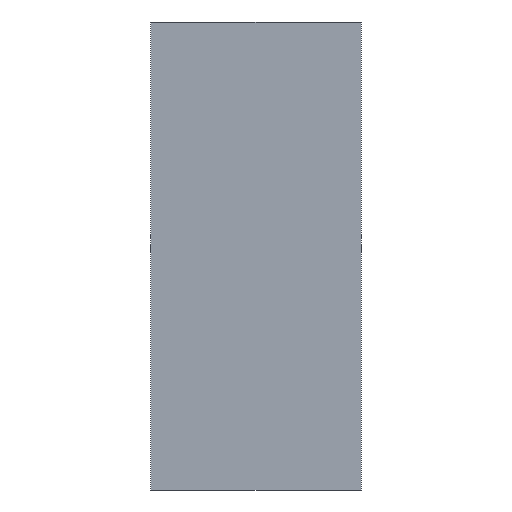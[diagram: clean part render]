
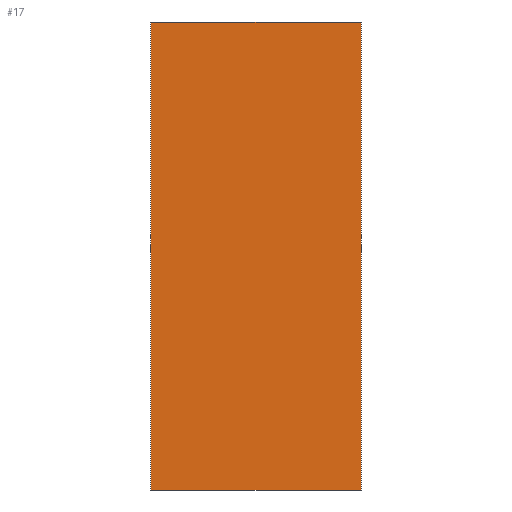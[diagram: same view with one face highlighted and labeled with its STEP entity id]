
A CAD part, left-side view. The second image highlights one B-rep face of the part: STEP entity #17.
In plain terms, the highlighted planar face has unit normal (-1, 0, 0).
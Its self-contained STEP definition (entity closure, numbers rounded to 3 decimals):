
#17 = ADVANCED_FACE('',(#18),#32,.F.);
#18 = FACE_BOUND('',#19,.F.);
#19 = EDGE_LOOP('',(#20,#55,#83,#111));
#20 = ORIENTED_EDGE('',*,*,#21,.F.);
#21 = EDGE_CURVE('',#22,#24,#26,.T.);
#22 = VERTEX_POINT('',#23);
#23 = CARTESIAN_POINT('',(-9.,-225.,-500.));
#24 = VERTEX_POINT('',#25);
#25 = CARTESIAN_POINT('',(-9.,-225.,500.));
#26 = SURFACE_CURVE('',#27,(#31,#43),.PCURVE_S1.);
#27 = LINE('',#28,#29);
#28 = CARTESIAN_POINT('',(-9.,-225.,-500.));
#29 = VECTOR('',#30,1.);
#30 = DIRECTION('',(0.,0.,1.));
#31 = PCURVE('',#32,#37);
#32 = PLANE('',#33);
#33 = AXIS2_PLACEMENT_3D('',#34,#35,#36);
#34 = CARTESIAN_POINT('',(-9.,-225.,-500.));
#35 = DIRECTION('',(1.,0.,0.));
#36 = DIRECTION('',(0.,0.,1.));
#37 = DEFINITIONAL_REPRESENTATION('',(#38),#42);
#38 = LINE('',#39,#40);
#39 = CARTESIAN_POINT('',(0.,0.));
#40 = VECTOR('',#41,1.);
#41 = DIRECTION('',(1.,0.));
#42 = ( GEOMETRIC_REPRESENTATION_CONTEXT(2) 
PARAMETRIC_REPRESENTATION_CONTEXT() REPRESENTATION_CONTEXT('2D SPACE',''
  ) );
#43 = PCURVE('',#44,#49);
#44 = PLANE('',#45);
#45 = AXIS2_PLACEMENT_3D('',#46,#47,#48);
#46 = CARTESIAN_POINT('',(-9.,-225.,-500.));
#47 = DIRECTION('',(0.,1.,0.));
#48 = DIRECTION('',(0.,0.,1.));
#49 = DEFINITIONAL_REPRESENTATION('',(#50),#54);
#50 = LINE('',#51,#52);
#51 = CARTESIAN_POINT('',(0.,0.));
#52 = VECTOR('',#53,1.);
#53 = DIRECTION('',(1.,0.));
#54 = ( GEOMETRIC_REPRESENTATION_CONTEXT(2) 
PARAMETRIC_REPRESENTATION_CONTEXT() REPRESENTATION_CONTEXT('2D SPACE',''
  ) );
#55 = ORIENTED_EDGE('',*,*,#56,.T.);
#56 = EDGE_CURVE('',#22,#57,#59,.T.);
#57 = VERTEX_POINT('',#58);
#58 = CARTESIAN_POINT('',(-9.,225.,-500.));
#59 = SURFACE_CURVE('',#60,(#64,#71),.PCURVE_S1.);
#60 = LINE('',#61,#62);
#61 = CARTESIAN_POINT('',(-9.,-225.,-500.));
#62 = VECTOR('',#63,1.);
#63 = DIRECTION('',(0.,1.,0.));
#64 = PCURVE('',#32,#65);
#65 = DEFINITIONAL_REPRESENTATION('',(#66),#70);
#66 = LINE('',#67,#68);
#67 = CARTESIAN_POINT('',(0.,0.));
#68 = VECTOR('',#69,1.);
#69 = DIRECTION('',(0.,-1.));
#70 = ( GEOMETRIC_REPRESENTATION_CONTEXT(2) 
PARAMETRIC_REPRESENTATION_CONTEXT() REPRESENTATION_CONTEXT('2D SPACE',''
  ) );
#71 = PCURVE('',#72,#77);
#72 = PLANE('',#73);
#73 = AXIS2_PLACEMENT_3D('',#74,#75,#76);
#74 = CARTESIAN_POINT('',(-9.,-225.,-500.));
#75 = DIRECTION('',(0.,0.,1.));
#76 = DIRECTION('',(1.,0.,0.));
#77 = DEFINITIONAL_REPRESENTATION('',(#78),#82);
#78 = LINE('',#79,#80);
#79 = CARTESIAN_POINT('',(0.,0.));
#80 = VECTOR('',#81,1.);
#81 = DIRECTION('',(0.,1.));
#82 = ( GEOMETRIC_REPRESENTATION_CONTEXT(2) 
PARAMETRIC_REPRESENTATION_CONTEXT() REPRESENTATION_CONTEXT('2D SPACE',''
  ) );
#83 = ORIENTED_EDGE('',*,*,#84,.T.);
#84 = EDGE_CURVE('',#57,#85,#87,.T.);
#85 = VERTEX_POINT('',#86);
#86 = CARTESIAN_POINT('',(-9.,225.,500.));
#87 = SURFACE_CURVE('',#88,(#92,#99),.PCURVE_S1.);
#88 = LINE('',#89,#90);
#89 = CARTESIAN_POINT('',(-9.,225.,-500.));
#90 = VECTOR('',#91,1.);
#91 = DIRECTION('',(0.,0.,1.));
#92 = PCURVE('',#32,#93);
#93 = DEFINITIONAL_REPRESENTATION('',(#94),#98);
#94 = LINE('',#95,#96);
#95 = CARTESIAN_POINT('',(0.,-450.));
#96 = VECTOR('',#97,1.);
#97 = DIRECTION('',(1.,0.));
#98 = ( GEOMETRIC_REPRESENTATION_CONTEXT(2) 
PARAMETRIC_REPRESENTATION_CONTEXT() REPRESENTATION_CONTEXT('2D SPACE',''
  ) );
#99 = PCURVE('',#100,#105);
#100 = PLANE('',#101);
#101 = AXIS2_PLACEMENT_3D('',#102,#103,#104);
#102 = CARTESIAN_POINT('',(-9.,225.,-500.));
#103 = DIRECTION('',(0.,1.,0.));
#104 = DIRECTION('',(0.,0.,1.));
#105 = DEFINITIONAL_REPRESENTATION('',(#106),#110);
#106 = LINE('',#107,#108);
#107 = CARTESIAN_POINT('',(0.,0.));
#108 = VECTOR('',#109,1.);
#109 = DIRECTION('',(1.,0.));
#110 = ( GEOMETRIC_REPRESENTATION_CONTEXT(2) 
PARAMETRIC_REPRESENTATION_CONTEXT() REPRESENTATION_CONTEXT('2D SPACE',''
  ) );
#111 = ORIENTED_EDGE('',*,*,#112,.F.);
#112 = EDGE_CURVE('',#24,#85,#113,.T.);
#113 = SURFACE_CURVE('',#114,(#118,#125),.PCURVE_S1.);
#114 = LINE('',#115,#116);
#115 = CARTESIAN_POINT('',(-9.,-225.,500.));
#116 = VECTOR('',#117,1.);
#117 = DIRECTION('',(0.,1.,0.));
#118 = PCURVE('',#32,#119);
#119 = DEFINITIONAL_REPRESENTATION('',(#120),#124);
#120 = LINE('',#121,#122);
#121 = CARTESIAN_POINT('',(1000.,0.));
#122 = VECTOR('',#123,1.);
#123 = DIRECTION('',(0.,-1.));
#124 = ( GEOMETRIC_REPRESENTATION_CONTEXT(2) 
PARAMETRIC_REPRESENTATION_CONTEXT() REPRESENTATION_CONTEXT('2D SPACE',''
  ) );
#125 = PCURVE('',#126,#131);
#126 = PLANE('',#127);
#127 = AXIS2_PLACEMENT_3D('',#128,#129,#130);
#128 = CARTESIAN_POINT('',(-9.,-225.,500.));
#129 = DIRECTION('',(0.,0.,1.));
#130 = DIRECTION('',(1.,0.,0.));
#131 = DEFINITIONAL_REPRESENTATION('',(#132),#136);
#132 = LINE('',#133,#134);
#133 = CARTESIAN_POINT('',(0.,0.));
#134 = VECTOR('',#135,1.);
#135 = DIRECTION('',(0.,1.));
#136 = ( GEOMETRIC_REPRESENTATION_CONTEXT(2) 
PARAMETRIC_REPRESENTATION_CONTEXT() REPRESENTATION_CONTEXT('2D SPACE',''
  ) );
